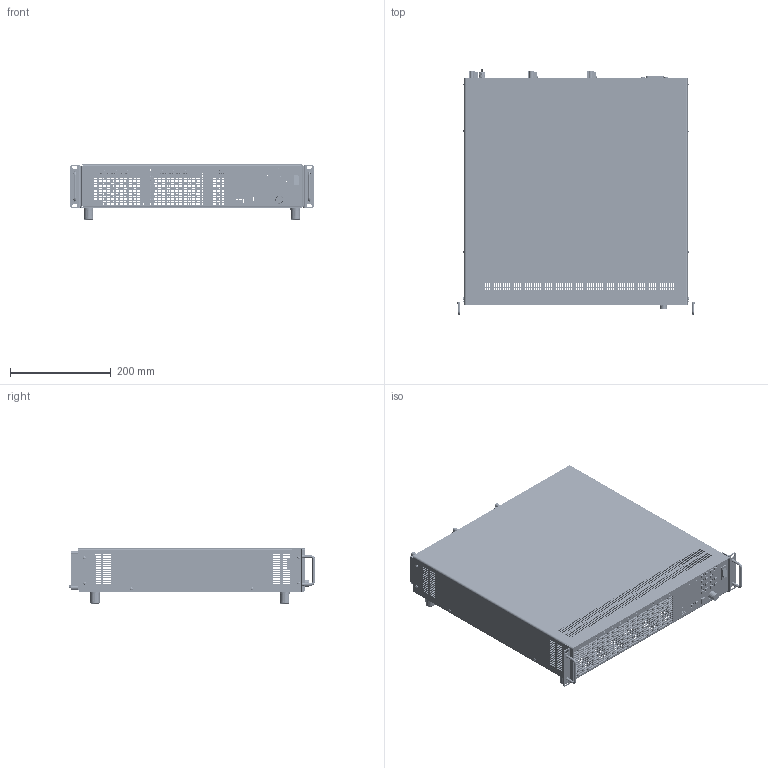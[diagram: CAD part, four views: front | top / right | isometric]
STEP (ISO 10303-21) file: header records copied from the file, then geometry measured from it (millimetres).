
FILE_DESCRIPTION(('STEP AP214'),'1');
FILE_NAME('PMLA_M1_M_19Z_2_PH8_7_62_ST43_3D_01.step','2019-05-10T07:46:24',(' '),(' '),'Spatial InterOp 3D',' ',' ');
FILE_SCHEMA(('AUTOMOTIVE_DESIGN { 1 0 10303 214 1 1 1 1 }'));
Length unit declared in the file: millimetre
Products named in the file (1): 1
Bounding box: 483.3 x 488.5 x 109.5 mm (x, y, z)
Volume: 1048671.8 mm3; surface area: 1278419.6 mm2
Topology: 115 solids, 117 shells, 16496 faces, 44233 edges, 28957 vertices
Faces by surface type: plane 11300, cylinder 3349, cone 1216, torus 272, bspline 205, sphere 148, extrusion 6
Entity records: 683810 total; most frequent: CARTESIAN_POINT 128185, ORIENTED_EDGE 87266, DIRECTION 84912, EDGE_CURVE 43633, VECTOR 33600, LINE 33594, VERTEX_POINT 28239, AXIS2_PLACEMENT_3D 25656
